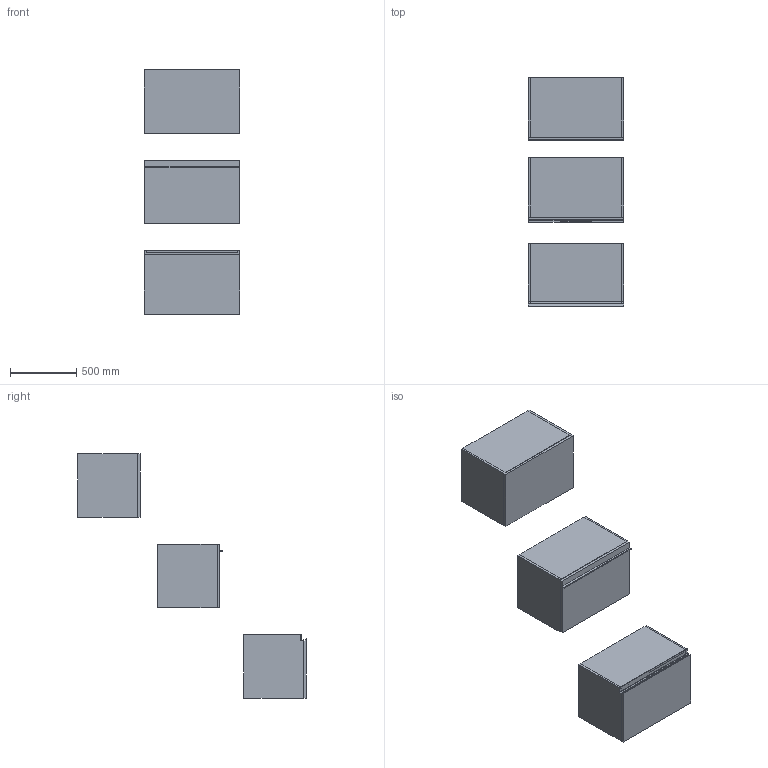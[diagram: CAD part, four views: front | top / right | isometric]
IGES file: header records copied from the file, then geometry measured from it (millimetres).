
Start section: Data from Parasolid IGES Translator 19.0.9, Copyright(c) 2006 Siemens PL M Software. All Rights Reserved.
Global section: file name: noorth-SI-H 48 D 47 W 72_8484.igs; native system: By Siemens PLM Incorporated; preprocessor: XPlus GENERIC/IGES 19.0.9; author: Noname; organization: Noname; date: 20200601.105636; units: metre
Bounding box: 720 x 1719.1 x 1840.01 mm (x, y, z)
Volume: 72028357.6 mm3; surface area: 10793526.4 mm2
Topology: 20 solids, 20 shells, 178 faces, 382 edges, 234 vertices
Faces by surface type: plane 134, extrusion 16, bspline 16, cylinder 12
